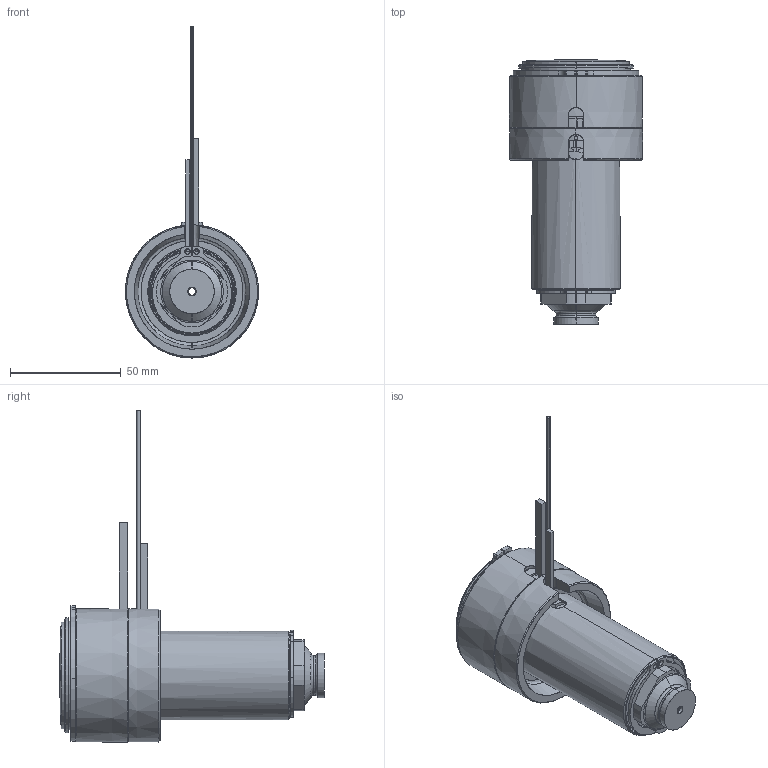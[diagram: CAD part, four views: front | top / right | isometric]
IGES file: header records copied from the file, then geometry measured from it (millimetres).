
Start section: SolidWorks IGES file using analytic representation for surfaces
Global section: file name: C:\Documents and Settings\ws-20\Desktop\TEM\UGER6603-M-A-1 [Øb-3.3 P-0 ØC-16].IGS; native system: SolidWorks 2012; preprocessor: SolidWorks 2012; author: ws-20; date: 120417.123425; units: millimetre
Bounding box: 60 x 119.25 x 149.65 mm (x, y, z)
Surface area: 68202.7 mm2 (no closed solid volume)
Topology: 0 solids, 0 shells, 169 faces, 3284 edges, 3284 vertices
Faces by surface type: revolution 100, bspline 69
